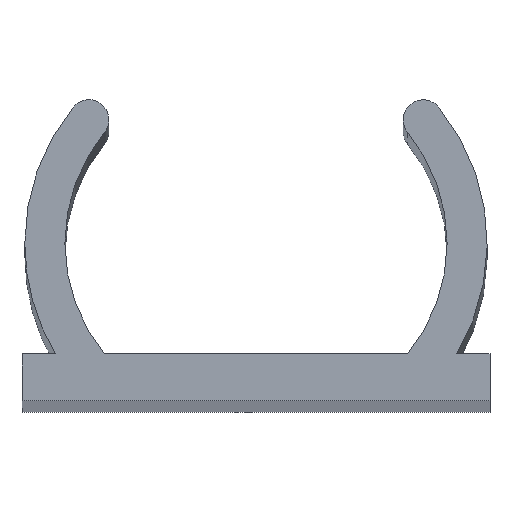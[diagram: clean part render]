
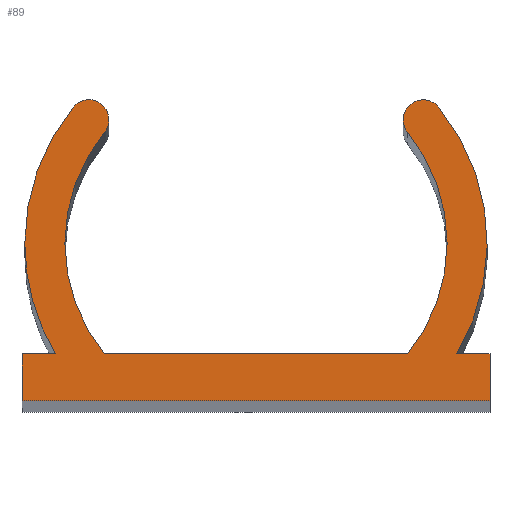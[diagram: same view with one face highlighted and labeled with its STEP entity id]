
A CAD part, top view. The second image highlights one B-rep face of the part: STEP entity #89.
In plain terms, the highlighted planar face has unit normal (0, 0, 1).
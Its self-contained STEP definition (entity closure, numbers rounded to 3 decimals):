
#2 = VERTEX_POINT ( 'NONE', #417 ) ;
#9 = EDGE_CURVE ( 'NONE', #221, #175, #477, .T. ) ;
#18 = DIRECTION ( 'NONE',  ( 0., 0., 1. ) ) ;
#23 = CARTESIAN_POINT ( 'NONE',  ( -0.241, 2.355, 100. ) ) ;
#24 = AXIS2_PLACEMENT_3D ( 'NONE', #294, #201, #373 ) ;
#32 = DIRECTION ( 'NONE',  ( 1., 0., 0. ) ) ;
#35 = DIRECTION ( 'NONE',  ( 1., 0., 0. ) ) ;
#37 = ORIENTED_EDGE ( 'NONE', *, *, #536, .T. ) ;
#41 = CARTESIAN_POINT ( 'NONE',  ( 0.241, 2.355, 100. ) ) ;
#44 = VECTOR ( 'NONE', #363, 1000. ) ;
#45 = CIRCLE ( 'NONE', #435, 2.618 ) ;
#48 = ORIENTED_EDGE ( 'NONE', *, *, #9, .T. ) ;
#52 = LINE ( 'NONE', #400, #44 ) ;
#62 = CARTESIAN_POINT ( 'NONE',  ( -3., 0.7, 100. ) ) ;
#65 = DIRECTION ( 'NONE',  ( -1., 0., 0. ) ) ;
#66 = VERTEX_POINT ( 'NONE', #567 ) ;
#67 = CARTESIAN_POINT ( 'NONE',  ( -2.501, 4.2, 100. ) ) ;
#68 = DIRECTION ( 'NONE',  ( 1., 0., 0. ) ) ;
#69 = LINE ( 'NONE', #548, #427 ) ;
#71 = LINE ( 'NONE', #510, #449 ) ;
#74 = ORIENTED_EDGE ( 'NONE', *, *, #106, .T. ) ;
#87 = ORIENTED_EDGE ( 'NONE', *, *, #213, .T. ) ;
#89 = ADVANCED_FACE ( 'NONE', ( #131 ), #261, .T. ) ;
#96 = CIRCLE ( 'NONE', #414, 3.218 ) ;
#98 = CARTESIAN_POINT ( 'NONE',  ( 2.201, 4.2, 100. ) ) ;
#106 = EDGE_CURVE ( 'NONE', #166, #269, #529, .T. ) ;
#109 = CIRCLE ( 'NONE', #429, 2.618 ) ;
#115 = CARTESIAN_POINT ( 'NONE',  ( -0.241, 2.355, 100. ) ) ;
#125 = DIRECTION ( 'NONE',  ( 0., 0., 1. ) ) ;
#131 = FACE_OUTER_BOUND ( 'NONE', #423, .T. ) ;
#135 = EDGE_CURVE ( 'NONE', #175, #166, #463, .T. ) ;
#141 = VERTEX_POINT ( 'NONE', #230 ) ;
#147 = CARTESIAN_POINT ( 'NONE',  ( 3.5, 0.7, 100. ) ) ;
#148 = CARTESIAN_POINT ( 'NONE',  ( 2.733, 4.39, 100. ) ) ;
#156 = VERTEX_POINT ( 'NONE', #316 ) ;
#163 = DIRECTION ( 'NONE',  ( 0., 0., 1. ) ) ;
#164 = DIRECTION ( 'NONE',  ( -1., 0., 0. ) ) ;
#166 = VERTEX_POINT ( 'NONE', #98 ) ;
#174 = EDGE_CURVE ( 'NONE', #2, #66, #52, .T. ) ;
#175 = VERTEX_POINT ( 'NONE', #148 ) ;
#194 = ORIENTED_EDGE ( 'NONE', *, *, #560, .T. ) ;
#196 = VERTEX_POINT ( 'NONE', #62 ) ;
#198 = DIRECTION ( 'NONE',  ( 0., 0., 1. ) ) ;
#201 = DIRECTION ( 'NONE',  ( 0., 0., -1. ) ) ;
#208 = LINE ( 'NONE', #506, #225 ) ;
#212 = CIRCLE ( 'NONE', #401, 3.218 ) ;
#213 = EDGE_CURVE ( 'NONE', #269, #322, #109, .T. ) ;
#215 = CARTESIAN_POINT ( 'NONE',  ( 2.501, 4.2, 100. ) ) ;
#218 = AXIS2_PLACEMENT_3D ( 'NONE', #537, #18, #228 ) ;
#219 = VECTOR ( 'NONE', #254, 1000. ) ;
#221 = VERTEX_POINT ( 'NONE', #375 ) ;
#225 = VECTOR ( 'NONE', #35, 1000. ) ;
#228 = DIRECTION ( 'NONE',  ( -1., 0., 0. ) ) ;
#230 = CARTESIAN_POINT ( 'NONE',  ( -2.269, 0.7, 100. ) ) ;
#232 = CARTESIAN_POINT ( 'NONE',  ( 2.269, 0.7, 100. ) ) ;
#235 = DIRECTION ( 'NONE',  ( -1., 0., 0. ) ) ;
#243 = EDGE_CURVE ( 'NONE', #196, #2, #69, .T. ) ;
#245 = CARTESIAN_POINT ( 'NONE',  ( -2.858, 2.355, 100. ) ) ;
#248 = CARTESIAN_POINT ( 'NONE',  ( 2.269, 0.7, 100. ) ) ;
#249 = ORIENTED_EDGE ( 'NONE', *, *, #315, .T. ) ;
#254 = DIRECTION ( 'NONE',  ( -1., 0., 0. ) ) ;
#261 = PLANE ( 'NONE',  #264 ) ;
#264 = AXIS2_PLACEMENT_3D ( 'NONE', #307, #472, #68 ) ;
#267 = ORIENTED_EDGE ( 'NONE', *, *, #503, .T. ) ;
#269 = VERTEX_POINT ( 'NONE', #466 ) ;
#287 = CARTESIAN_POINT ( 'NONE',  ( -3.458, 2.355, 100. ) ) ;
#291 = DIRECTION ( 'NONE',  ( 0., 0., 1. ) ) ;
#293 = LINE ( 'NONE', #418, #219 ) ;
#294 = CARTESIAN_POINT ( 'NONE',  ( -0.241, 2.355, 100. ) ) ;
#307 = CARTESIAN_POINT ( 'NONE',  ( 0.241, 2.355, 100. ) ) ;
#308 = ORIENTED_EDGE ( 'NONE', *, *, #135, .T. ) ;
#309 = EDGE_CURVE ( 'NONE', #349, #221, #293, .T. ) ;
#311 = CIRCLE ( 'NONE', #24, 2.618 ) ;
#315 = EDGE_CURVE ( 'NONE', #532, #341, #45, .T. ) ;
#316 = CARTESIAN_POINT ( 'NONE',  ( 3.5, 0., 100. ) ) ;
#317 = CARTESIAN_POINT ( 'NONE',  ( -2.269, 4.01, 100. ) ) ;
#318 = DIRECTION ( 'NONE',  ( 0., 0., -1. ) ) ;
#322 = VERTEX_POINT ( 'NONE', #232 ) ;
#336 = DIRECTION ( 'NONE',  ( 1., 0., 0. ) ) ;
#340 = CARTESIAN_POINT ( 'NONE',  ( -2.733, 4.39, 100. ) ) ;
#341 = VERTEX_POINT ( 'NONE', #317 ) ;
#349 = VERTEX_POINT ( 'NONE', #147 ) ;
#354 = ORIENTED_EDGE ( 'NONE', *, *, #456, .T. ) ;
#363 = DIRECTION ( 'NONE',  ( 0., -1., 0. ) ) ;
#364 = ORIENTED_EDGE ( 'NONE', *, *, #309, .T. ) ;
#373 = DIRECTION ( 'NONE',  ( -1., 0., 0. ) ) ;
#375 = CARTESIAN_POINT ( 'NONE',  ( 3., 0.7, 100. ) ) ;
#400 = CARTESIAN_POINT ( 'NONE',  ( -3.5, 0.7, 100. ) ) ;
#401 = AXIS2_PLACEMENT_3D ( 'NONE', #23, #198, #164 ) ;
#408 = CARTESIAN_POINT ( 'NONE',  ( 0.241, 2.355, 100. ) ) ;
#411 = DIRECTION ( 'NONE',  ( -1., 0., 0. ) ) ;
#414 = AXIS2_PLACEMENT_3D ( 'NONE', #115, #291, #411 ) ;
#417 = CARTESIAN_POINT ( 'NONE',  ( -3.5, 0.7, 100. ) ) ;
#418 = CARTESIAN_POINT ( 'NONE',  ( 3.5, 0.7, 100. ) ) ;
#420 = VERTEX_POINT ( 'NONE', #287 ) ;
#423 = EDGE_LOOP ( 'NONE', ( #453, #267, #354, #364, #48, #308, #74, #87, #194, #528, #249, #468, #37, #484, #549 ) ) ;
#427 = VECTOR ( 'NONE', #65, 1000. ) ;
#429 = AXIS2_PLACEMENT_3D ( 'NONE', #408, #318, #443 ) ;
#433 = EDGE_CURVE ( 'NONE', #420, #196, #212, .T. ) ;
#435 = AXIS2_PLACEMENT_3D ( 'NONE', #547, #450, #235 ) ;
#439 = AXIS2_PLACEMENT_3D ( 'NONE', #215, #163, #511 ) ;
#443 = DIRECTION ( 'NONE',  ( 1., 0., 0. ) ) ;
#446 = DIRECTION ( 'NONE',  ( -1., 0., 0. ) ) ;
#448 = VERTEX_POINT ( 'NONE', #340 ) ;
#449 = VECTOR ( 'NONE', #514, 1000. ) ;
#450 = DIRECTION ( 'NONE',  ( 0., 0., -1. ) ) ;
#453 = ORIENTED_EDGE ( 'NONE', *, *, #174, .T. ) ;
#456 = EDGE_CURVE ( 'NONE', #156, #349, #71, .T. ) ;
#460 = CIRCLE ( 'NONE', #527, 0.3 ) ;
#463 = CIRCLE ( 'NONE', #218, 0.3 ) ;
#466 = CARTESIAN_POINT ( 'NONE',  ( 2.269, 4.01, 100. ) ) ;
#468 = ORIENTED_EDGE ( 'NONE', *, *, #473, .T. ) ;
#472 = DIRECTION ( 'NONE',  ( 0., 0., 1. ) ) ;
#473 = EDGE_CURVE ( 'NONE', #341, #448, #460, .T. ) ;
#477 = CIRCLE ( 'NONE', #481, 3.218 ) ;
#481 = AXIS2_PLACEMENT_3D ( 'NONE', #41, #523, #32 ) ;
#484 = ORIENTED_EDGE ( 'NONE', *, *, #433, .T. ) ;
#487 = VECTOR ( 'NONE', #446, 1000. ) ;
#491 = EDGE_CURVE ( 'NONE', #141, #532, #311, .T. ) ;
#503 = EDGE_CURVE ( 'NONE', #66, #156, #208, .T. ) ;
#506 = CARTESIAN_POINT ( 'NONE',  ( -3.5, 0., 100. ) ) ;
#510 = CARTESIAN_POINT ( 'NONE',  ( 3.5, 0., 100. ) ) ;
#511 = DIRECTION ( 'NONE',  ( -1., 0., 0. ) ) ;
#514 = DIRECTION ( 'NONE',  ( 0., 1., 0. ) ) ;
#523 = DIRECTION ( 'NONE',  ( 0., 0., 1. ) ) ;
#527 = AXIS2_PLACEMENT_3D ( 'NONE', #67, #125, #336 ) ;
#528 = ORIENTED_EDGE ( 'NONE', *, *, #491, .T. ) ;
#529 = CIRCLE ( 'NONE', #439, 0.3 ) ;
#532 = VERTEX_POINT ( 'NONE', #245 ) ;
#536 = EDGE_CURVE ( 'NONE', #448, #420, #96, .T. ) ;
#537 = CARTESIAN_POINT ( 'NONE',  ( 2.501, 4.2, 100. ) ) ;
#547 = CARTESIAN_POINT ( 'NONE',  ( -0.241, 2.355, 100. ) ) ;
#548 = CARTESIAN_POINT ( 'NONE',  ( -3.5, 0.7, 100. ) ) ;
#549 = ORIENTED_EDGE ( 'NONE', *, *, #243, .T. ) ;
#554 = LINE ( 'NONE', #248, #487 ) ;
#560 = EDGE_CURVE ( 'NONE', #322, #141, #554, .T. ) ;
#567 = CARTESIAN_POINT ( 'NONE',  ( -3.5, 0., 100. ) ) ;
